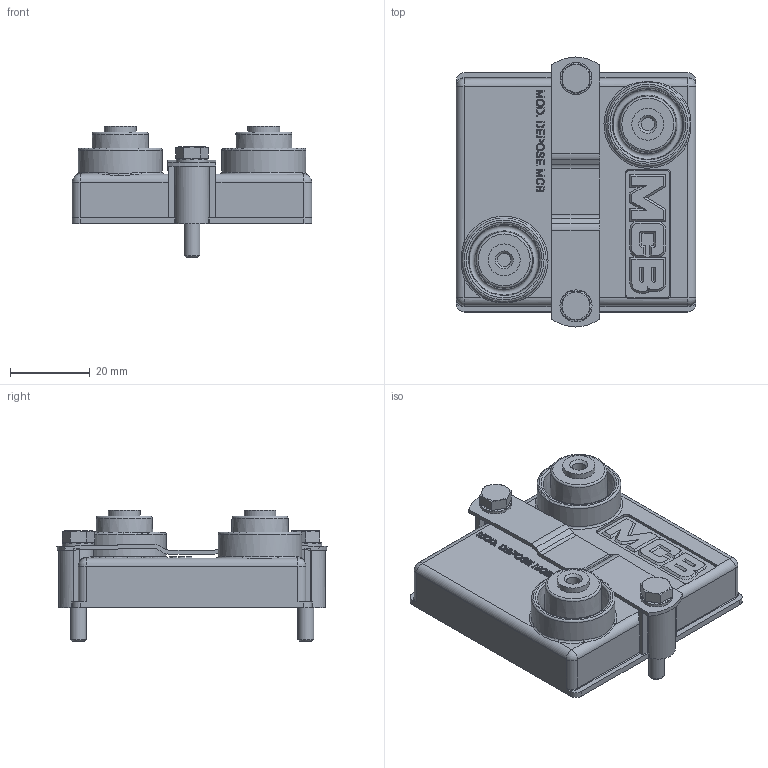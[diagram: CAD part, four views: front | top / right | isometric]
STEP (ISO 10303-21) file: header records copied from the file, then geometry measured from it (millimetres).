
FILE_DESCRIPTION(/* description */ (' '),/* implementation_level */ '2;1');
FILE_NAME(/* name */ '479-004',/* time_stamp */ '2017-09-18T13:53:20+02:00',/* author */ ('VISHAY MCB INDUSTRIE'),/* organization */ (' '),/* preprocessor_version */ 'ST-DEVELOPER v16.7',/* originating_system */ 'DEX',/* authorisation */ $);
FILE_SCHEMA (('AUTOMOTIVE_DESIGN {1 0 10303 214 3 1 1}'));
Length unit declared in the file: millimetre
Products named in the file (5): 479-004; 284001_0; Rondelle CS M4 etroite_0; 211604_Bride position travail_b; Vis HM 4x25_0
Assembly tree (6 placements, depth 2):
  479-004
    284001_0
    Rondelle CS M4 etroite_0  x2
    211604_Bride position travail_b
    Vis HM 4x25_0  x2
Bounding box: 60 x 67.66 x 33 mm (x, y, z)
Volume: 49463.1 mm3; surface area: 16903.7 mm2
Topology: 6 solids, 7 shells, 607 faces, 1614 edges, 1056 vertices
Faces by surface type: plane 328, bspline 114, cylinder 79, cone 64, torus 18, sphere 4
Full cylindrical faces by diameter (mm): 3.3 x2, 4 x4, 4.4 x1, 4.5 x2, 6 x2, 8 x4, 20.999 x2
Entity records: 21494 total; most frequent: CARTESIAN_POINT 5708, ORIENTED_EDGE 2744, DIRECTION 2235, EDGE_CURVE 1372, VERTEX_POINT 915, LINE 801, VECTOR 801, AXIS2_PLACEMENT_3D 717
